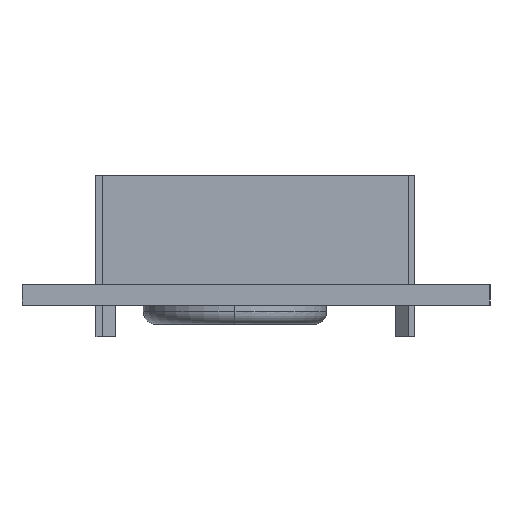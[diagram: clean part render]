
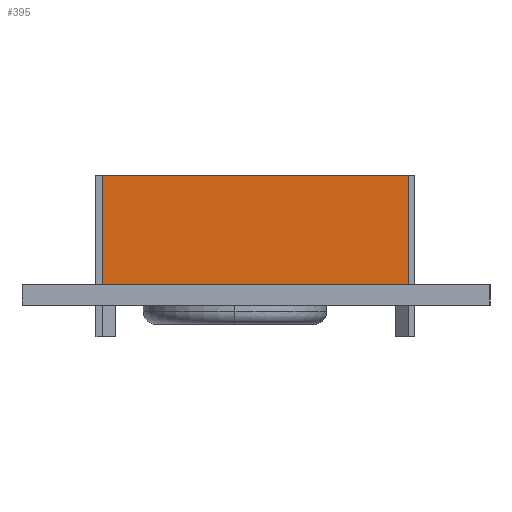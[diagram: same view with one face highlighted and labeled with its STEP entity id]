
A CAD part, left-side view. The second image highlights one B-rep face of the part: STEP entity #395.
In plain terms, the highlighted planar face has unit normal (-1, 0, 0).
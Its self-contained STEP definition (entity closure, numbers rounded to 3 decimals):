
#395 = ADVANCED_FACE ( 'NONE', ( #5770 ), #6389, .T. ) ;
#404 = CARTESIAN_POINT ( 'NONE',  ( -3.739, 44.097, 57.306 ) ) ;
#814 = VERTEX_POINT ( 'NONE', #11025 ) ;
#1219 = EDGE_CURVE ( 'NONE', #10142, #814, #5498, .T. ) ;
#1424 = VECTOR ( 'NONE', #5410, 1000. ) ;
#1484 = ORIENTED_EDGE ( 'NONE', *, *, #8455, .T. ) ;
#1563 = VERTEX_POINT ( 'NONE', #11071 ) ;
#2396 = LINE ( 'NONE', #6963, #9560 ) ;
#2587 = VECTOR ( 'NONE', #6114, 1000. ) ;
#2893 = VERTEX_POINT ( 'NONE', #8431 ) ;
#3085 = LINE ( 'NONE', #6907, #9818 ) ;
#3253 = ORIENTED_EDGE ( 'NONE', *, *, #9398, .F. ) ;
#3544 = AXIS2_PLACEMENT_3D ( 'NONE', #7542, #8451, #3832 ) ;
#3832 = DIRECTION ( 'NONE',  ( 0., 0., 1. ) ) ;
#4854 = EDGE_CURVE ( 'NONE', #1563, #10142, #3085, .T. ) ;
#5410 = DIRECTION ( 'NONE',  ( 0., 0., 1. ) ) ;
#5498 = LINE ( 'NONE', #11848, #2587 ) ;
#5511 = LINE ( 'NONE', #10093, #1424 ) ;
#5770 = FACE_OUTER_BOUND ( 'NONE', #9655, .T. ) ;
#6114 = DIRECTION ( 'NONE',  ( 0., 0., -1. ) ) ;
#6389 = PLANE ( 'NONE',  #3544 ) ;
#6907 = CARTESIAN_POINT ( 'NONE',  ( -3.739, 44.577, 57.306 ) ) ;
#6963 = CARTESIAN_POINT ( 'NONE',  ( -3.739, 12.962, 48.706 ) ) ;
#7420 = ORIENTED_EDGE ( 'NONE', *, *, #1219, .T. ) ;
#7542 = CARTESIAN_POINT ( 'NONE',  ( -3.739, 44.577, 48.534 ) ) ;
#7922 = DIRECTION ( 'NONE',  ( 0., 1., 0. ) ) ;
#8152 = ORIENTED_EDGE ( 'NONE', *, *, #4854, .T. ) ;
#8431 = CARTESIAN_POINT ( 'NONE',  ( -3.739, 20.096, 48.706 ) ) ;
#8451 = DIRECTION ( 'NONE',  ( -1., 0., 0. ) ) ;
#8455 = EDGE_CURVE ( 'NONE', #2893, #1563, #5511, .T. ) ;
#9398 = EDGE_CURVE ( 'NONE', #2893, #814, #2396, .T. ) ;
#9560 = VECTOR ( 'NONE', #7922, 1000. ) ;
#9655 = EDGE_LOOP ( 'NONE', ( #3253, #1484, #8152, #7420 ) ) ;
#9818 = VECTOR ( 'NONE', #10636, 1000. ) ;
#10093 = CARTESIAN_POINT ( 'NONE',  ( -3.739, 20.096, 48.534 ) ) ;
#10142 = VERTEX_POINT ( 'NONE', #404 ) ;
#10636 = DIRECTION ( 'NONE',  ( 0., 1., 0. ) ) ;
#11025 = CARTESIAN_POINT ( 'NONE',  ( -3.739, 44.097, 48.706 ) ) ;
#11071 = CARTESIAN_POINT ( 'NONE',  ( -3.739, 20.096, 57.306 ) ) ;
#11848 = CARTESIAN_POINT ( 'NONE',  ( -3.739, 44.097, 48.534 ) ) ;
